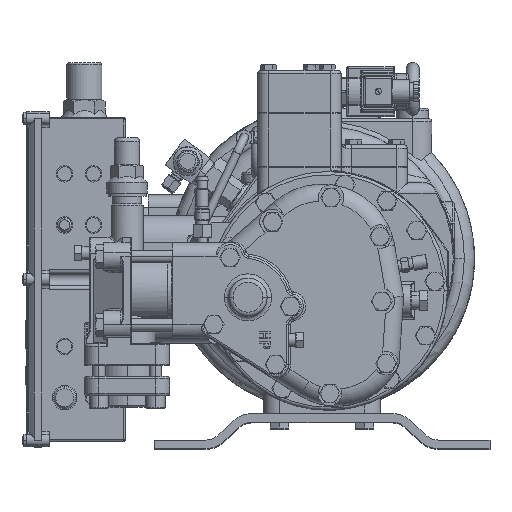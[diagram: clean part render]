
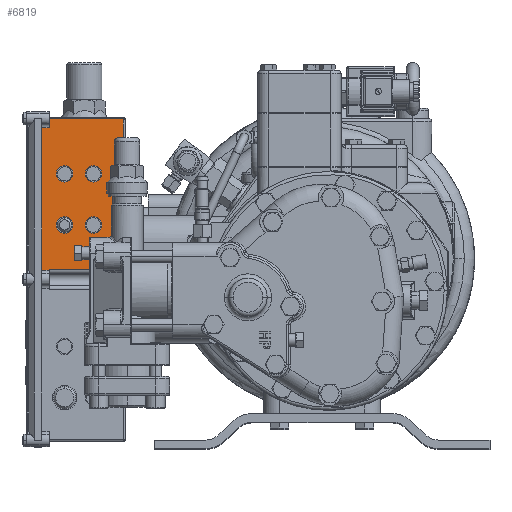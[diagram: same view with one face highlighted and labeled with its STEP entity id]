
A CAD part, top view. The second image highlights one B-rep face of the part: STEP entity #6819.
In plain terms, the highlighted planar face has unit normal (0, 0, 1) as drawn and (0, 0, -1) by its records, which use the part's own axes.
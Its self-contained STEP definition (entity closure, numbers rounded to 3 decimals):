
#6819=ADVANCED_FACE('',(#19692,#19694,#19696,#19698,#19700),#19702,.T.);
#19692=FACE_BOUND('',#19693,.T.);
#19693=EDGE_LOOP('',(#38575,#38576));
#19694=FACE_BOUND('',#19695,.T.);
#19695=EDGE_LOOP('',(#38577,#38578));
#19696=FACE_BOUND('',#19697,.T.);
#19697=EDGE_LOOP('',(#38579,#38580));
#19698=FACE_BOUND('',#19699,.T.);
#19699=EDGE_LOOP('',(#38581,#38582));
#19700=FACE_OUTER_BOUND('',#19701,.T.);
#19701=EDGE_LOOP('',(#38583,#38584,#38585,#38586,#38587,#38588,#38589,#38590));
#19702=PLANE('',#19703);
#19703=AXIS2_PLACEMENT_3D('',#19704,#19705,#19706);
#19704=CARTESIAN_POINT('',(150.4,0.,-82.5));
#19705=DIRECTION('',(0.,0.,-1.));
#19706=DIRECTION('',(-1.,0.,0.));
#38575=ORIENTED_EDGE('',*,*,#47526,.T.);
#38576=ORIENTED_EDGE('',*,*,#47527,.T.);
#38577=ORIENTED_EDGE('',*,*,#47528,.T.);
#38578=ORIENTED_EDGE('',*,*,#47529,.T.);
#38579=ORIENTED_EDGE('',*,*,#47530,.T.);
#38580=ORIENTED_EDGE('',*,*,#47531,.T.);
#38581=ORIENTED_EDGE('',*,*,#47532,.T.);
#38582=ORIENTED_EDGE('',*,*,#47533,.T.);
#38583=ORIENTED_EDGE('',*,*,#47534,.T.);
#38584=ORIENTED_EDGE('',*,*,#47535,.T.);
#38585=ORIENTED_EDGE('',*,*,#47340,.F.);
#38586=ORIENTED_EDGE('',*,*,#47335,.F.);
#38587=ORIENTED_EDGE('',*,*,#47333,.F.);
#38588=ORIENTED_EDGE('',*,*,#47524,.F.);
#38589=ORIENTED_EDGE('',*,*,#47536,.T.);
#38590=ORIENTED_EDGE('',*,*,#47537,.T.);
#47333=EDGE_CURVE('',#54689,#54691,#54692,.F.);
#47335=EDGE_CURVE('',#54691,#54694,#54695,.F.);
#47340=EDGE_CURVE('',#54694,#54703,#54704,.F.);
#47524=EDGE_CURVE('',#55000,#54689,#55001,.T.);
#47526=EDGE_CURVE('',#55003,#55004,#55005,.F.);
#47527=EDGE_CURVE('',#55004,#55003,#55006,.F.);
#47528=EDGE_CURVE('',#55007,#55008,#55009,.F.);
#47529=EDGE_CURVE('',#55008,#55007,#55010,.F.);
#47530=EDGE_CURVE('',#55011,#55012,#55013,.F.);
#47531=EDGE_CURVE('',#55012,#55011,#55014,.F.);
#47532=EDGE_CURVE('',#55015,#55016,#55017,.F.);
#47533=EDGE_CURVE('',#55016,#55015,#55018,.F.);
#47534=EDGE_CURVE('',#55019,#55020,#55021,.T.);
#47535=EDGE_CURVE('',#55020,#54703,#55022,.T.);
#47536=EDGE_CURVE('',#55000,#55023,#55024,.T.);
#47537=EDGE_CURVE('',#55023,#55019,#55025,.T.);
#54689=VERTEX_POINT('',#86970);
#54691=VERTEX_POINT('',#86975);
#54692=LINE('',#86976,#86977);
#54694=VERTEX_POINT('',#86983);
#54695=LINE('',#86984,#86985);
#54703=VERTEX_POINT('',#87005);
#54704=LINE('',#87006,#87007);
#55000=VERTEX_POINT('',#88404);
#55001=LINE('',#88405,#88406);
#55003=VERTEX_POINT('',#88412);
#55004=VERTEX_POINT('',#88413);
#55005=CIRCLE('',#88414,7.75);
#55006=CIRCLE('',#88418,7.75);
#55007=VERTEX_POINT('',#88422);
#55008=VERTEX_POINT('',#88423);
#55009=CIRCLE('',#88424,7.75);
#55010=CIRCLE('',#88428,7.75);
#55011=VERTEX_POINT('',#88432);
#55012=VERTEX_POINT('',#88433);
#55013=CIRCLE('',#88434,7.75);
#55014=CIRCLE('',#88438,7.75);
#55015=VERTEX_POINT('',#88442);
#55016=VERTEX_POINT('',#88443);
#55017=CIRCLE('',#88444,7.75);
#55018=CIRCLE('',#88448,7.75);
#55019=VERTEX_POINT('',#88452);
#55020=VERTEX_POINT('',#88453);
#55021=LINE('',#88454,#88455);
#55022=LINE('',#88457,#88458);
#55023=VERTEX_POINT('',#88460);
#55024=LINE('',#88461,#88462);
#55025=LINE('',#88464,#88465);
#86970=CARTESIAN_POINT('',(-8.66,78.5,-82.5));
#86975=CARTESIAN_POINT('',(-142.34,78.5,-82.5));
#86976=CARTESIAN_POINT('',(-142.34,78.5,-82.5));
#86977=VECTOR('',#86978,1.);
#86978=DIRECTION('',(1.,0.,0.));
#86983=CARTESIAN_POINT('',(-142.34,71.5,-82.5));
#86984=CARTESIAN_POINT('',(-142.34,71.5,-82.5));
#86985=VECTOR('',#86986,1.);
#86986=DIRECTION('',(0.,1.,0.));
#87005=CARTESIAN_POINT('',(-150.4,71.5,-82.5));
#87006=CARTESIAN_POINT('',(-150.4,71.5,-82.5));
#87007=VECTOR('',#87008,1.);
#87008=DIRECTION('',(1.,0.,0.));
#88404=CARTESIAN_POINT('',(-8.66,71.5,-82.5));
#88405=CARTESIAN_POINT('',(-8.66,71.5,-82.5));
#88406=VECTOR('',#88407,1.);
#88407=DIRECTION('',(0.,1.,0.));
#88412=CARTESIAN_POINT('',(-106.75,30.,-82.5));
#88413=CARTESIAN_POINT('',(-91.25,30.,-82.5));
#88414=AXIS2_PLACEMENT_3D('',#88415,#88416,#88417);
#88415=CARTESIAN_POINT('',(-99.,30.,-82.5));
#88416=DIRECTION('',(0.,0.,-1.));
#88417=DIRECTION('',(1.,0.,0.));
#88418=AXIS2_PLACEMENT_3D('',#88419,#88420,#88421);
#88419=CARTESIAN_POINT('',(-99.,30.,-82.5));
#88420=DIRECTION('',(0.,0.,-1.));
#88421=DIRECTION('',(-1.,0.,0.));
#88422=CARTESIAN_POINT('',(-106.75,57.,-82.5));
#88423=CARTESIAN_POINT('',(-91.25,57.,-82.5));
#88424=AXIS2_PLACEMENT_3D('',#88425,#88426,#88427);
#88425=CARTESIAN_POINT('',(-99.,57.,-82.5));
#88426=DIRECTION('',(0.,0.,-1.));
#88427=DIRECTION('',(1.,0.,0.));
#88428=AXIS2_PLACEMENT_3D('',#88429,#88430,#88431);
#88429=CARTESIAN_POINT('',(-99.,57.,-82.5));
#88430=DIRECTION('',(0.,0.,-1.));
#88431=DIRECTION('',(-1.,0.,0.));
#88432=CARTESIAN_POINT('',(-58.75,30.,-82.5));
#88433=CARTESIAN_POINT('',(-43.25,30.,-82.5));
#88434=AXIS2_PLACEMENT_3D('',#88435,#88436,#88437);
#88435=CARTESIAN_POINT('',(-51.,30.,-82.5));
#88436=DIRECTION('',(0.,0.,-1.));
#88437=DIRECTION('',(1.,0.,0.));
#88438=AXIS2_PLACEMENT_3D('',#88439,#88440,#88441);
#88439=CARTESIAN_POINT('',(-51.,30.,-82.5));
#88440=DIRECTION('',(0.,0.,-1.));
#88441=DIRECTION('',(-1.,0.,0.));
#88442=CARTESIAN_POINT('',(-58.75,57.,-82.5));
#88443=CARTESIAN_POINT('',(-43.25,57.,-82.5));
#88444=AXIS2_PLACEMENT_3D('',#88445,#88446,#88447);
#88445=CARTESIAN_POINT('',(-51.,57.,-82.5));
#88446=DIRECTION('',(0.,0.,-1.));
#88447=DIRECTION('',(1.,0.,0.));
#88448=AXIS2_PLACEMENT_3D('',#88449,#88450,#88451);
#88449=CARTESIAN_POINT('',(-51.,57.,-82.5));
#88450=DIRECTION('',(0.,0.,-1.));
#88451=DIRECTION('',(-1.,0.,0.));
#88452=CARTESIAN_POINT('',(-9.11,2.,-82.5));
#88453=CARTESIAN_POINT('',(-150.4,2.,-82.5));
#88454=CARTESIAN_POINT('',(-9.11,2.,-82.5));
#88455=VECTOR('',#88456,1.);
#88456=DIRECTION('',(-1.,0.,0.));
#88457=CARTESIAN_POINT('',(-150.4,2.,-82.5));
#88458=VECTOR('',#88459,1.);
#88459=DIRECTION('',(0.,1.,0.));
#88460=CARTESIAN_POINT('',(-9.11,71.5,-82.5));
#88461=CARTESIAN_POINT('',(-8.66,71.5,-82.5));
#88462=VECTOR('',#88463,1.);
#88463=DIRECTION('',(-1.,0.,0.));
#88464=CARTESIAN_POINT('',(-9.11,71.5,-82.5));
#88465=VECTOR('',#88466,1.);
#88466=DIRECTION('',(0.,-1.,0.));
